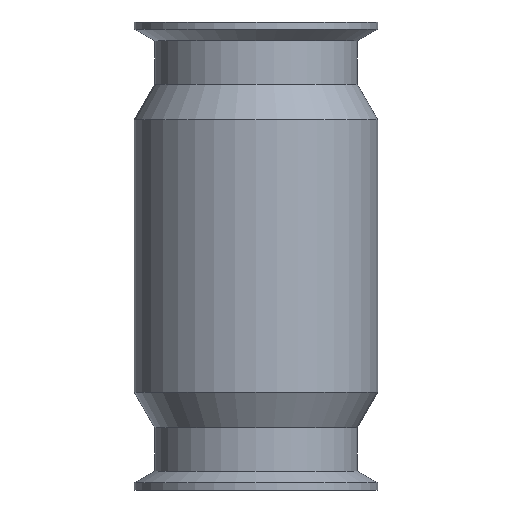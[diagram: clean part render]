
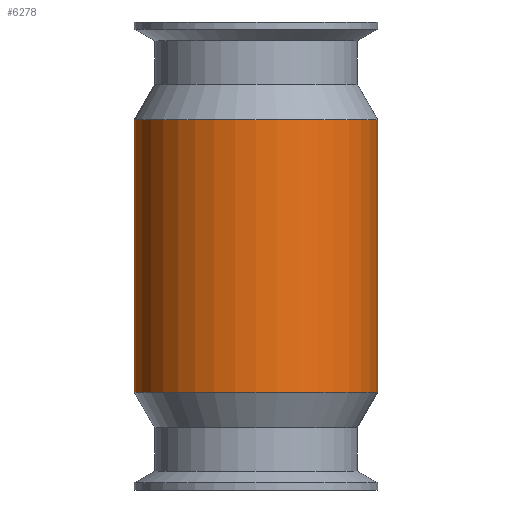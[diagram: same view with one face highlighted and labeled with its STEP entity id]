
A CAD part, front view. The second image highlights one B-rep face of the part: STEP entity #6278.
In plain terms, the highlighted cylindrical face has radius 39 mm (diameter 78 mm), a full revolution.
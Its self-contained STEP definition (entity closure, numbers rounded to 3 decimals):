
#3328=CYLINDRICAL_SURFACE('',#17053,39.);
#4358=B_SPLINE_CURVE_WITH_KNOTS('',3,(#23113,#23114,#23115,#23116),
 .UNSPECIFIED.,.F.,.F.,(4,4),(0.,1.),.UNSPECIFIED.);
#4359=B_SPLINE_CURVE_WITH_KNOTS('',3,(#23118,#23119,#23120,#23121),
 .UNSPECIFIED.,.F.,.F.,(4,4),(0.,1.),.UNSPECIFIED.);
#4360=B_SPLINE_CURVE_WITH_KNOTS('',3,(#23123,#23124,#23125,#23126),
 .UNSPECIFIED.,.F.,.F.,(4,4),(0.,1.),.UNSPECIFIED.);
#4361=B_SPLINE_CURVE_WITH_KNOTS('',3,(#23130,#23131,#23132,#23133),
 .UNSPECIFIED.,.F.,.F.,(4,4),(0.,1.),.UNSPECIFIED.);
#4362=B_SPLINE_CURVE_WITH_KNOTS('',3,(#23135,#23136,#23137,#23138),
 .UNSPECIFIED.,.F.,.F.,(4,4),(0.,1.),.UNSPECIFIED.);
#4363=B_SPLINE_CURVE_WITH_KNOTS('',3,(#23140,#23141,#23142,#23143),
 .UNSPECIFIED.,.F.,.F.,(4,4),(0.,1.),.UNSPECIFIED.);
#4713=LINE('',#23110,#5493);
#4714=LINE('',#23128,#5494);
#5493=VECTOR('',#18745,1.);
#5494=VECTOR('',#18746,1.);
#6278=ADVANCED_FACE('',(#7492,#7493,#7494),#3328,.T.);
#7492=FACE_BOUND('',#7866,.T.);
#7493=FACE_BOUND('',#7867,.T.);
#7494=FACE_BOUND('',#7868,.T.);
#7866=EDGE_LOOP('',(#8979));
#7867=EDGE_LOOP('',(#8980));
#7868=EDGE_LOOP('',(#8981,#8982,#8983,#8984,#8985,#8986,#8987,#8988));
#8979=ORIENTED_EDGE('',*,*,#14237,.T.);
#8980=ORIENTED_EDGE('',*,*,#14238,.T.);
#8981=ORIENTED_EDGE('',*,*,#14239,.T.);
#8982=ORIENTED_EDGE('',*,*,#14240,.T.);
#8983=ORIENTED_EDGE('',*,*,#14241,.T.);
#8984=ORIENTED_EDGE('',*,*,#14242,.T.);
#8985=ORIENTED_EDGE('',*,*,#14243,.T.);
#8986=ORIENTED_EDGE('',*,*,#14244,.T.);
#8987=ORIENTED_EDGE('',*,*,#14245,.T.);
#8988=ORIENTED_EDGE('',*,*,#14246,.T.);
#12941=VERTEX_POINT('',#23107);
#12942=VERTEX_POINT('',#23109);
#12943=VERTEX_POINT('',#23111);
#12944=VERTEX_POINT('',#23112);
#12945=VERTEX_POINT('',#23117);
#12946=VERTEX_POINT('',#23122);
#12947=VERTEX_POINT('',#23127);
#12948=VERTEX_POINT('',#23129);
#12949=VERTEX_POINT('',#23134);
#12950=VERTEX_POINT('',#23139);
#14237=EDGE_CURVE('',#12941,#12941,#16214,.T.);
#14238=EDGE_CURVE('',#12942,#12942,#16215,.T.);
#14239=EDGE_CURVE('',#12943,#12944,#4713,.T.);
#14240=EDGE_CURVE('',#12944,#12945,#4358,.T.);
#14241=EDGE_CURVE('',#12945,#12946,#4359,.T.);
#14242=EDGE_CURVE('',#12946,#12947,#4360,.T.);
#14243=EDGE_CURVE('',#12947,#12948,#4714,.T.);
#14244=EDGE_CURVE('',#12948,#12949,#4361,.T.);
#14245=EDGE_CURVE('',#12949,#12950,#4362,.T.);
#14246=EDGE_CURVE('',#12950,#12943,#4363,.T.);
#16214=CIRCLE('',#17051,39.);
#16215=CIRCLE('',#17052,39.);
#17051=AXIS2_PLACEMENT_3D('',#23106,#18741,#18742);
#17052=AXIS2_PLACEMENT_3D('',#23108,#18743,#18744);
#17053=AXIS2_PLACEMENT_3D('',#23144,#18747,#18748);
#18741=DIRECTION('',(0.,0.,-1.));
#18742=DIRECTION('',(1.,0.,0.));
#18743=DIRECTION('',(0.,0.,1.));
#18744=DIRECTION('',(-1.,0.,0.));
#18745=DIRECTION('',(0.,0.,-1.));
#18746=DIRECTION('',(0.,0.,1.));
#18747=DIRECTION('',(0.,0.,-1.));
#18748=DIRECTION('',(1.,0.,0.));
#23106=CARTESIAN_POINT('',(0.,0.,-6.258));
#23107=CARTESIAN_POINT('',(39.,0.,-6.258));
#23108=CARTESIAN_POINT('',(0.,0.,-93.742));
#23109=CARTESIAN_POINT('',(-39.,0.,-93.742));
#23110=CARTESIAN_POINT('',(-8.775,38.,3208.));
#23111=CARTESIAN_POINT('',(-8.775,38.,-28.743));
#23112=CARTESIAN_POINT('',(-8.775,38.,-49.257));
#23113=CARTESIAN_POINT('',(-8.775,38.,-49.257));
#23114=CARTESIAN_POINT('',(-7.568,38.279,-51.04));
#23115=CARTESIAN_POINT('',(-5.928,38.598,-52.497));
#23116=CARTESIAN_POINT('',(-3.945,38.8,-53.366));
#23117=CARTESIAN_POINT('',(-3.945,38.8,-53.366));
#23118=CARTESIAN_POINT('',(-3.945,38.8,-53.366));
#23119=CARTESIAN_POINT('',(-1.389,39.06,-54.213));
#23120=CARTESIAN_POINT('',(1.391,39.06,-54.209));
#23121=CARTESIAN_POINT('',(3.945,38.8,-53.356));
#23122=CARTESIAN_POINT('',(3.945,38.8,-53.356));
#23123=CARTESIAN_POINT('',(3.945,38.8,-53.356));
#23124=CARTESIAN_POINT('',(5.933,38.598,-52.479));
#23125=CARTESIAN_POINT('',(7.57,38.278,-51.015));
#23126=CARTESIAN_POINT('',(8.775,38.,-49.221));
#23127=CARTESIAN_POINT('',(8.775,38.,-49.221));
#23128=CARTESIAN_POINT('',(8.775,38.,3208.));
#23129=CARTESIAN_POINT('',(8.775,38.,-28.779));
#23130=CARTESIAN_POINT('',(8.775,38.,-28.779));
#23131=CARTESIAN_POINT('',(7.571,38.278,-26.987));
#23132=CARTESIAN_POINT('',(5.931,38.598,-25.52));
#23133=CARTESIAN_POINT('',(3.945,38.8,-24.644));
#23134=CARTESIAN_POINT('',(3.945,38.8,-24.644));
#23135=CARTESIAN_POINT('',(3.945,38.8,-24.644));
#23136=CARTESIAN_POINT('',(1.391,39.06,-23.791));
#23137=CARTESIAN_POINT('',(-1.389,39.06,-23.787));
#23138=CARTESIAN_POINT('',(-3.945,38.8,-24.634));
#23139=CARTESIAN_POINT('',(-3.945,38.8,-24.634));
#23140=CARTESIAN_POINT('',(-3.945,38.8,-24.634));
#23141=CARTESIAN_POINT('',(-5.93,38.598,-25.504));
#23142=CARTESIAN_POINT('',(-7.567,38.279,-26.959));
#23143=CARTESIAN_POINT('',(-8.775,38.,-28.743));
#23144=CARTESIAN_POINT('',(0.,0.,3208.));
